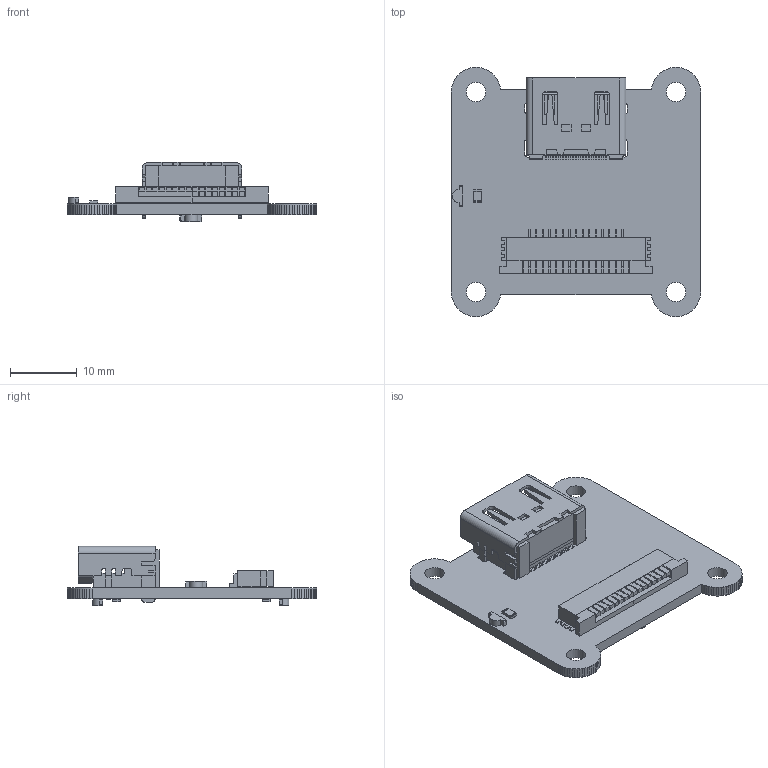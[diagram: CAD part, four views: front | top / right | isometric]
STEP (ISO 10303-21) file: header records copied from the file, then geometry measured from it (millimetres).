
FILE_DESCRIPTION(('KiCad electronic assembly'),'2;1');
FILE_NAME('MIPI2HDMI.step','2023-11-23T16:05:55',('Pcbnew'),('Kicad'), 'Open CASCADE STEP processor 7.7','KiCad to STEP converter','Unknown' );
FILE_SCHEMA(('AUTOMOTIVE_DESIGN { 1 0 10303 214 1 1 1 1 }'));
Length unit declared in the file: millimetre
Products named in the file (10): MIPI2HDMI 1; HDMI_A_Molex_208658-1001_Horizontal; SOLID; R_0805_2012Metric; TE_1-84953-5_1x15-1MP_P1.0mm_Horizontal; BIVAR__INC_SM1204PGC; MIPI2HDMI PCB
Assembly tree (13 placements, depth 3):
  MIPI2HDMI 1
    HDMI_A_Molex_208658-1001_Horizontal
      SOLID
    R_0805_2012Metric  x3
      SOLID
    TE_1-84953-5_1x15-1MP_P1.0mm_Horizontal
      SOLID
    BIVAR__INC_SM1204PGC  x3
      SOLID
    MIPI2HDMI PCB
Bounding box: 37.4 x 37.4 x 8.88 mm (x, y, z)
Volume: 2846.7 mm3; surface area: 4406.7 mm2
Topology: 9 solids, 9 shells, 1062 faces, 2914 edges, 1885 vertices
Faces by surface type: plane 973, cylinder 71, extrusion 18
Full cylindrical faces by diameter (mm): 2.9 x4
Entity records: 70250 total; most frequent: CARTESIAN_POINT 11093, DIRECTION 9922, VECTOR 7750, LINE 7732, ORIENTED_EDGE 5344, PCURVE 5340, DEFINITIONAL_REPRESENTATION 5340, EDGE_CURVE 2670
